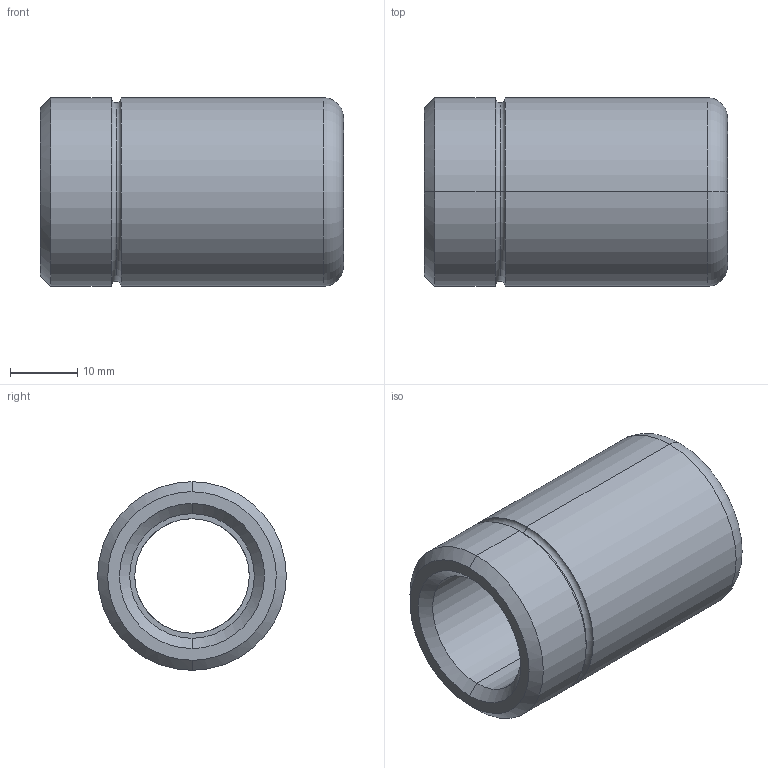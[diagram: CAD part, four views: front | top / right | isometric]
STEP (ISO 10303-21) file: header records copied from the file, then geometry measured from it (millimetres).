
FILE_DESCRIPTION(('CATIA V5 STEP Exchange'),'2;1');
FILE_NAME('C:\Users\Utente\Desktop\IO LAVORO\3D X SITO CF\X SITO\3D files 347\347-17 x 45.stp','2021-01-01T10:05:19+00:00',('none'),('none'),'CATIA Version 5 Release 20 GA (IN-10)','CATIA V5 STEP AP203','none');
FILE_SCHEMA(('CONFIG_CONTROL_DESIGN'));
Length unit declared in the file: millimetre
Products named in the file (1): 347-17 x 45
Bounding box: 45 x 28 x 28 mm (x, y, z)
Volume: 16208.9 mm3; surface area: 7134.5 mm2
Topology: 1 solids, 1 shells, 29 faces, 86 edges, 60 vertices
Faces by surface type: torus 12, cylinder 10, cone 4, plane 3
Entity records: 1154 total; most frequent: CARTESIAN_POINT 344, ORIENTED_EDGE 172, DIRECTION 132, AXIS2_PLACEMENT_3D 90, EDGE_CURVE 86, CIRCLE 60, VERTEX_POINT 60, EDGE_LOOP 32
